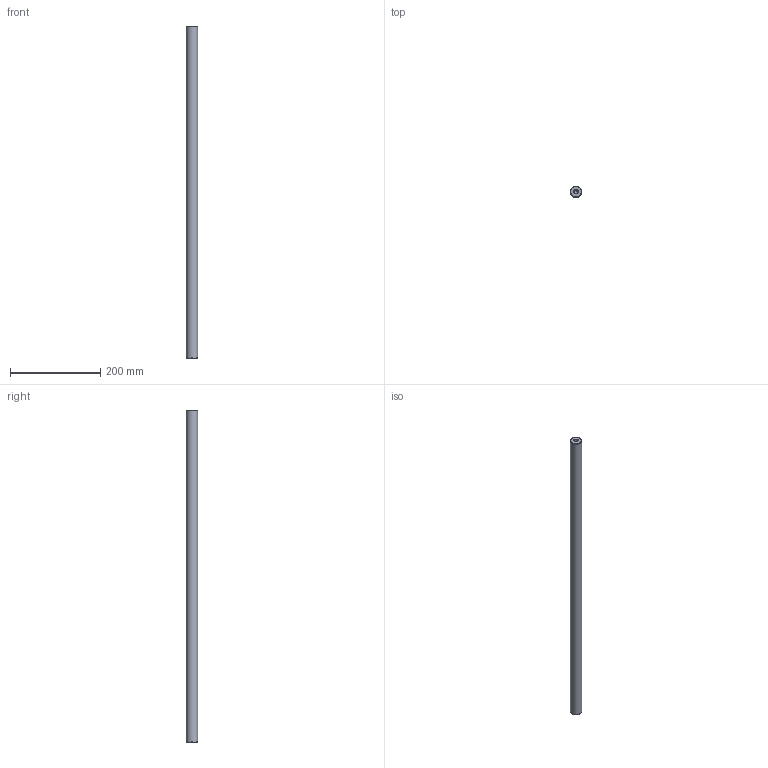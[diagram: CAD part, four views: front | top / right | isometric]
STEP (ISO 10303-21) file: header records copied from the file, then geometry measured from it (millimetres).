
FILE_DESCRIPTION( ( 'STEP AP214' ), '1' );
FILE_NAME( 'U:/Etudes/Top Solid/BIBLIO 3D AVM/STEP/PNEUMATIQUE/GUIDAGES/Accessoires/Colonnes/Ø25x736.step', '2005-05-04T12:54:35', ( ' ' ), ( ' ' ), 'XStep 1.0', ' ', ' ' );
FILE_SCHEMA( ( 'automotive_design' ) );
Length unit declared in the file: metre
Products named in the file (1): 1
Bounding box: 25 x 25 x 736 mm (x, y, z)
Volume: 358235.8 mm3; surface area: 60079.8 mm2
Topology: 1 solids, 1 shells, 13 faces, 27 edges, 16 vertices
Faces by surface type: cone 6, cylinder 5, plane 2
Full cylindrical faces by diameter (mm): 8.376 x4, 25 x1
Entity records: 382 total; most frequent: DIRECTION 52, CARTESIAN_POINT 40, AXIS2_PLACEMENT_3D 26, EDGE_LOOP 24, ORIENTED_EDGE 24, FACE_OUTER_BOUND 18, VERTEX_POINT 14, STYLED_ITEM 13
